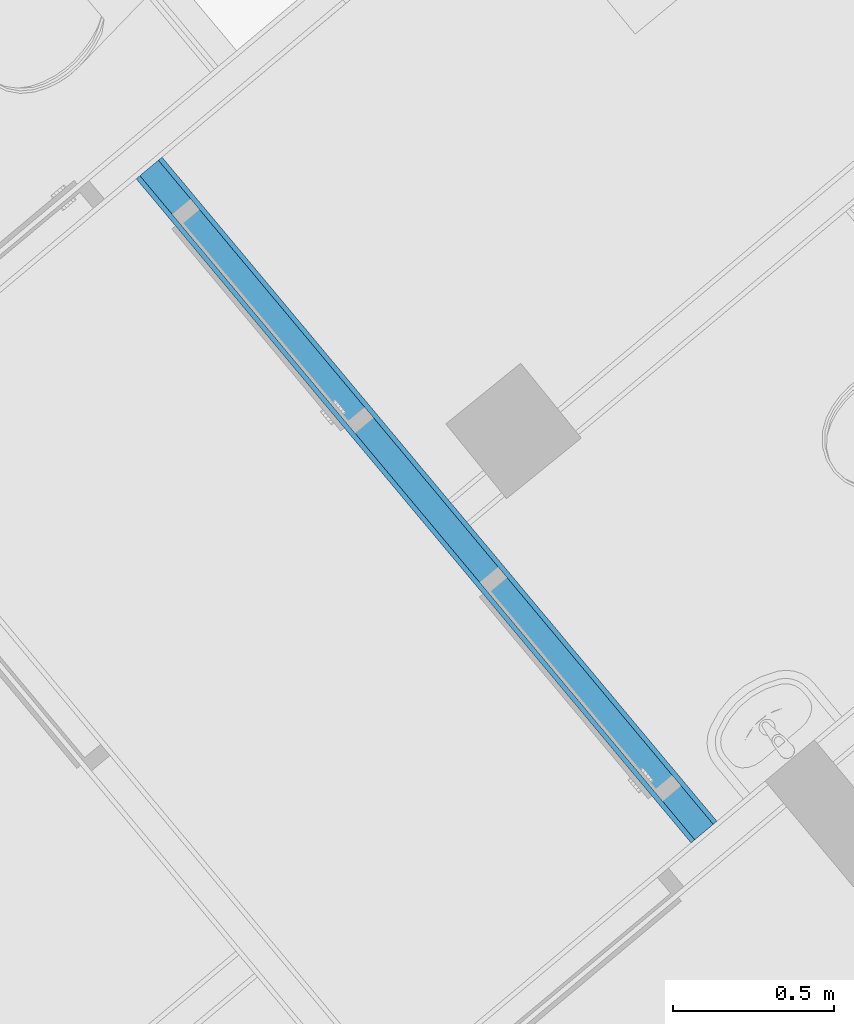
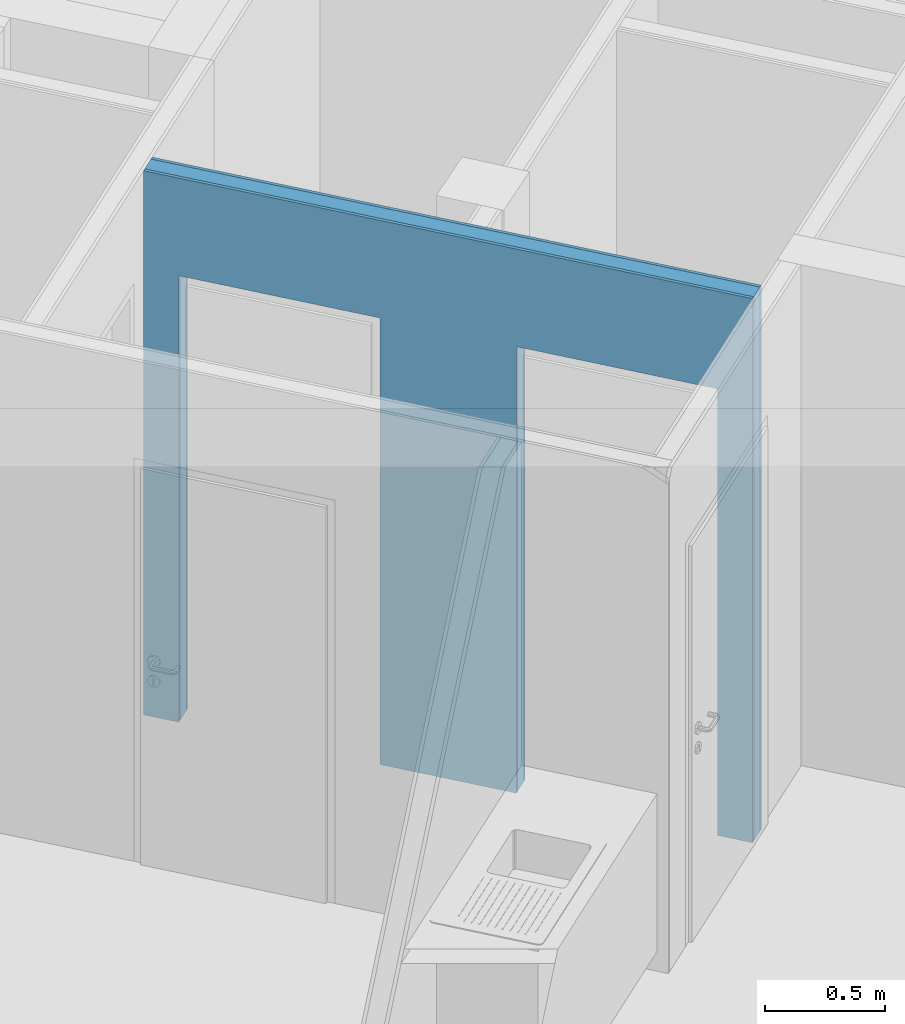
# One storey, part 11 of 61: 3 building element parts, 2 openings, 1 element without a shape of its own.
"""IFC4 building model written with IfcOpenShell, lengths in metres."""

from ifc_helpers import new_model, entity, si_unit, converted_unit, derived_unit, direction, frame, origin_with_axes, place, context, subcontext, project, spatial, polygons, material, type_object, element, aggregate, save


model = new_model("IFC4")

# Units and contexts
model_context = context("Model", 3, precision=1e-05, world=origin_with_axes(), true_north=direction((0.0, 1.0)))
body_context = subcontext(model_context, "Body", "Model", "MODEL_VIEW")
ifc_project = project(units=[si_unit("LENGTHUNIT", "METRE"), si_unit("AREAUNIT", "SQUARE_METRE"), si_unit("VOLUMEUNIT", "CUBIC_METRE"), converted_unit("PLANEANGLEUNIT", "DEGREE", entity("IfcPlaneAngleMeasure", 0.0174532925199), si_unit("PLANEANGLEUNIT", "RADIAN"), dimensions=[0, 0, 0, 0, 0, 0, 0]), converted_unit("TIMEUNIT", "Year", entity("IfcTimeMeasure", 31556926.0), si_unit("TIMEUNIT", "SECOND"), dimensions=[0, 0, 1, 0, 0, 0, 0]), si_unit("MASSUNIT", "GRAM", prefix="KILO"), si_unit("THERMODYNAMICTEMPERATUREUNIT", "DEGREE_CELSIUS"), si_unit("LUMINOUSINTENSITYUNIT", "LUMEN"), si_unit("ENERGYUNIT", "JOULE", prefix="MEGA"), derived_unit("THERMALCONDUCTANCEUNIT", [(si_unit("POWERUNIT", "WATT"), 1), (si_unit("LENGTHUNIT", "METRE"), -1), (si_unit("THERMODYNAMICTEMPERATUREUNIT", "KELVIN"), -1)]), derived_unit("SPECIFICHEATCAPACITYUNIT", [(si_unit("ENERGYUNIT", "JOULE"), 1), (si_unit("MASSUNIT", "GRAM", prefix="KILO"), -1), (si_unit("THERMODYNAMICTEMPERATUREUNIT", "KELVIN"), -1)]), derived_unit("MASSDENSITYUNIT", [(si_unit("MASSUNIT", "GRAM", prefix="KILO"), 1), (si_unit("VOLUMEUNIT", "CUBIC_METRE"), -1)])], contexts=[model_context])

# Site, building, storey
site_placement = place(None, frame((-0.00153261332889, -0.00661245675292, 0.0), z_axis=(0.0, 0.0, 1.0), x_axis=(1.0, 0.0, 0.0)))
site = spatial("IfcSite", under=ifc_project, at=site_placement, Name="Gelände", CompositionType="ELEMENT")
building_placement = place(site_placement, origin_with_axes())
building = spatial("IfcBuilding", under=site, at=building_placement, Name="Gebäude", CompositionType="ELEMENT")
storey_placement = place(building_placement, frame((0.0, 0.0, 5.7), z_axis=(0.0, 0.0, 1.0), x_axis=(1.0, 0.0, 0.0)))
storey = spatial("IfcBuildingStorey", under=building, at=storey_placement, Name="DG1", CompositionType="ELEMENT", Elevation=5.7)

# Wall, openings, building element parts
wall_type = type_object("IfcWallType", Name="IW LB 01 Leichtbautrennwand einfach 10,5 cm 105", PredefinedType="NOTDEFINED")
wall_placement = place(storey_placement, frame((-1.00185448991, 17.6693449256, 0.0), z_axis=(0.0, 0.0, 1.0), x_axis=(-0.641209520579, 0.767365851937, 0.0)))
wall = element("IfcWall", 1, at=wall_placement, inside=storey, type_object=wall_type, Name="Wand-012", PredefinedType="NOTDEFINED")
opening_1_placement = place(wall_placement, frame((0.600343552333, 0.0, 0.22), z_axis=(0.0, 0.0, 1.0), x_axis=(1.0, 0.0, 0.0)))
element("IfcOpeningElement", 2, at=opening_1_placement, cuts=wall, Name="Tür-016", context=body_context, identifier="Reference", shape_type="Tessellation", body=[
    polygons([(-0.445, -1.32697699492, 2.045), (-0.445, -1.32697699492, -0.22), (0.445, -1.32697699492, -0.22), (0.445, -1.32697699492, 2.045), (-0.445, 1.43197699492, 2.045), (-0.445, 1.43197699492, -0.22), (0.445, 1.43197699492, -0.22), (0.445, 1.43197699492, 2.045)], [[[1, 2, 3, 4]], [[5, 6, 2, 1]], [[6, 7, 3, 2]], [[7, 8, 4, 3]], [[8, 5, 1, 4]], [[7, 6, 5, 8]]], closed=True),
])
opening_2_placement = place(wall_placement, frame((2.09376015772, 0.0, 0.22), z_axis=(0.0, 0.0, 1.0), x_axis=(1.0, 0.0, 0.0)))
element("IfcOpeningElement", 3, at=opening_2_placement, cuts=wall, Name="Tür-016", context=body_context, identifier="Reference", shape_type="Tessellation", body=[
    polygons([(-0.445, -1.32697699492, 2.045), (-0.445, -1.32697699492, -0.22), (0.445, -1.32697699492, -0.22), (0.445, -1.32697699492, 2.045), (-0.445, 1.43197699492, 2.045), (-0.445, 1.43197699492, -0.22), (0.445, 1.43197699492, -0.22), (0.445, 1.43197699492, 2.045)], [[[1, 2, 3, 4]], [[5, 6, 2, 1]], [[6, 7, 3, 2]], [[7, 8, 4, 3]], [[8, 5, 1, 4]], [[7, 6, 5, 8]]], closed=True),
])
ifc_material_1 = material(Name="Gipskarton")
building_element_part_1_placement = place(wall_placement, origin_with_axes())
building_element_part_1 = element("IfcBuildingElementPart", 4, at=building_element_part_1_placement, material=ifc_material_1, Name="Gipskarton", PredefinedType="NOTDEFINED", context=body_context, shape_type="Tessellation", body=[
    polygons([(2.53876015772, 0.09, 2.265), (2.53876015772, 0.09, 0.22), (2.53876015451, 0.09, 0.0), (2.69484355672, 0.09, 0.0), (2.69484355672, 0.09, 2.76), (0.0, 0.09, 2.76), (0.0, 0.09, 0.0), (0.155343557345, 0.09, 0.0), (0.155343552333, 0.09, 0.22), (0.155343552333, 0.09, 2.265), (1.04534355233, 0.09, 2.265), (1.04534355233, 0.09, 0.22), (1.04534353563, 0.09, 0.0), (1.64876015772, 0.09, 0.0), (1.64876015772, 0.09, 0.22), (1.64876015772, 0.09, 2.265), (2.53876015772, 0.105, 2.265), (2.53876015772, 0.105, 0.22), (2.53876015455, 0.105, 0.0), (2.69484355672, 0.105, 0.0), (2.69484355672, 0.105, 2.76), (0.0, 0.105, 2.76), (0.0, 0.105, 0.0), (0.155343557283, 0.105, 0.0), (0.155343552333, 0.105, 0.22), (0.155343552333, 0.105, 2.265), (1.04534355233, 0.105, 2.265), (1.04534355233, 0.105, 0.22), (1.04534353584, 0.105, 0.0), (1.64876015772, 0.105, 0.0), (1.64876015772, 0.105, 0.22), (1.64876015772, 0.105, 2.265)], [[[1, 2, 3, 4, 5, 6, 7, 8, 9, 10, 11, 12, 13, 14, 15, 16]], [[2, 1, 17, 18]], [[2, 18, 19, 3]], [[20, 4, 3, 19]], [[21, 5, 4, 20]], [[21, 22, 6, 5]], [[7, 6, 22, 23]], [[7, 23, 24, 8]], [[9, 8, 24, 25]], [[9, 25, 26, 10]], [[10, 26, 27, 11]], [[11, 27, 28, 12]], [[28, 29, 13, 12]], [[13, 29, 30, 14]], [[31, 15, 14, 30]], [[16, 15, 31, 32]], [[1, 16, 32, 17]], [[32, 31, 30, 29, 28, 27, 26, 25, 24, 23, 22, 21, 20, 19, 18, 17]]], closed=True),
])
ifc_material_2 = material(Name="Mineralwolle weich")
building_element_part_2_placement = place(wall_placement, origin_with_axes())
building_element_part_2 = element("IfcBuildingElementPart", 5, at=building_element_part_2_placement, material=ifc_material_2, Name="Mineralwolle weich", PredefinedType="NOTDEFINED", context=body_context, shape_type="Tessellation", body=[
    polygons([(2.53876015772, 0.015, 2.265), (2.53876015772, 0.015, 0.22), (2.53876015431, 0.015, 0.0), (2.69484355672, 0.015, 0.0), (2.69484355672, 0.015, 2.76), (0.0, 0.015, 2.76), (0.0, 0.015, 0.0), (0.155343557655, 0.015, 0.0), (0.155343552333, 0.015, 0.22), (0.155343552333, 0.015, 2.265), (1.04534355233, 0.015, 2.265), (1.04534355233, 0.015, 0.22), (1.0453435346, 0.015, 0.0), (1.64876015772, 0.015, 0.0), (1.64876015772, 0.015, 0.22), (1.64876015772, 0.015, 2.265), (2.53876015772, 0.09, 2.265), (2.53876015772, 0.09, 0.22), (2.53876015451, 0.09, 0.0), (2.69484355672, 0.09, 0.0), (2.69484355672, 0.09, 2.76), (0.0, 0.09, 2.76), (0.0, 0.09, 0.0), (0.155343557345, 0.09, 0.0), (0.155343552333, 0.09, 0.22), (0.155343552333, 0.09, 2.265), (1.04534355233, 0.09, 2.265), (1.04534355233, 0.09, 0.22), (1.04534353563, 0.09, 0.0), (1.64876015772, 0.09, 0.0), (1.64876015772, 0.09, 0.22), (1.64876015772, 0.09, 2.265)], [[[1, 2, 3, 4, 5, 6, 7, 8, 9, 10, 11, 12, 13, 14, 15, 16]], [[2, 1, 17, 18]], [[2, 18, 19, 3]], [[20, 4, 3, 19]], [[21, 5, 4, 20]], [[21, 22, 6, 5]], [[7, 6, 22, 23]], [[7, 23, 24, 8]], [[9, 8, 24, 25]], [[9, 25, 26, 10]], [[10, 26, 27, 11]], [[11, 27, 28, 12]], [[28, 29, 13, 12]], [[13, 29, 30, 14]], [[31, 15, 14, 30]], [[16, 15, 31, 32]], [[1, 16, 32, 17]], [[32, 31, 30, 29, 28, 27, 26, 25, 24, 23, 22, 21, 20, 19, 18, 17]]], closed=True),
])
building_element_part_3_placement = place(wall_placement, origin_with_axes())
building_element_part_3 = element("IfcBuildingElementPart", 6, at=building_element_part_3_placement, material=ifc_material_1, Name="Gipskarton", PredefinedType="NOTDEFINED", context=body_context, shape_type="Tessellation", body=[
    polygons([(2.53876015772, 1.70691709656e-08, 2.265), (2.53876015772, 1.87500468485e-08, 0.22), (2.53876015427, 1.87500468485e-08, 0.0), (2.69484355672, 0.0, 0.0), (2.69484355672, 0.0, 2.76), (0.0, 0.0, 2.76), (0.0, 0.0, 0.0), (0.155343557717, 1.84442470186e-08, 0.0), (0.155343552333, 1.84442470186e-08, 0.22), (0.155343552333, 1.70691709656e-08, 2.265), (1.04534355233, 1.70691727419e-08, 2.265), (1.04534355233, -1.2392145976e-08, 0.22), (1.04534353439, -1.23921424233e-08, 0.0), (1.64876015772, 1.70691727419e-08, 0.0), (1.64876015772, 1.70691727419e-08, 0.22), (1.64876015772, 1.70691709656e-08, 2.265), (2.53876015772, 0.015, 2.265), (2.53876015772, 0.015, 0.22), (2.53876015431, 0.015, 0.0), (2.69484355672, 0.015, 0.0), (2.69484355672, 0.015, 2.76), (0.0, 0.015, 2.76), (0.0, 0.015, 0.0), (0.155343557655, 0.015, 0.0), (0.155343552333, 0.015, 0.22), (0.155343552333, 0.015, 2.265), (1.04534355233, 0.015, 2.265), (1.04534355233, 0.015, 0.22), (1.0453435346, 0.015, 0.0), (1.64876015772, 0.015, 0.0), (1.64876015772, 0.015, 0.22), (1.64876015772, 0.015, 2.265)], [[[1, 2, 3, 4, 5, 6, 7, 8, 9, 10, 11, 12, 13, 14, 15, 16]], [[2, 1, 17, 18]], [[2, 18, 19, 3]], [[20, 4, 3, 19]], [[21, 5, 4, 20]], [[21, 22, 6, 5]], [[7, 6, 22, 23]], [[7, 23, 24, 8]], [[9, 8, 24, 25]], [[9, 25, 26, 10]], [[10, 26, 27, 11]], [[11, 27, 28, 12]], [[28, 29, 13, 12]], [[13, 29, 30, 14]], [[31, 15, 14, 30]], [[16, 15, 31, 32]], [[1, 16, 32, 17]], [[32, 31, 30, 29, 28, 27, 26, 25, 24, 23, 22, 21, 20, 19, 18, 17]]], closed=True),
])
aggregate(wall, [building_element_part_1, building_element_part_2, building_element_part_3])

save(model, "model.ifc")
